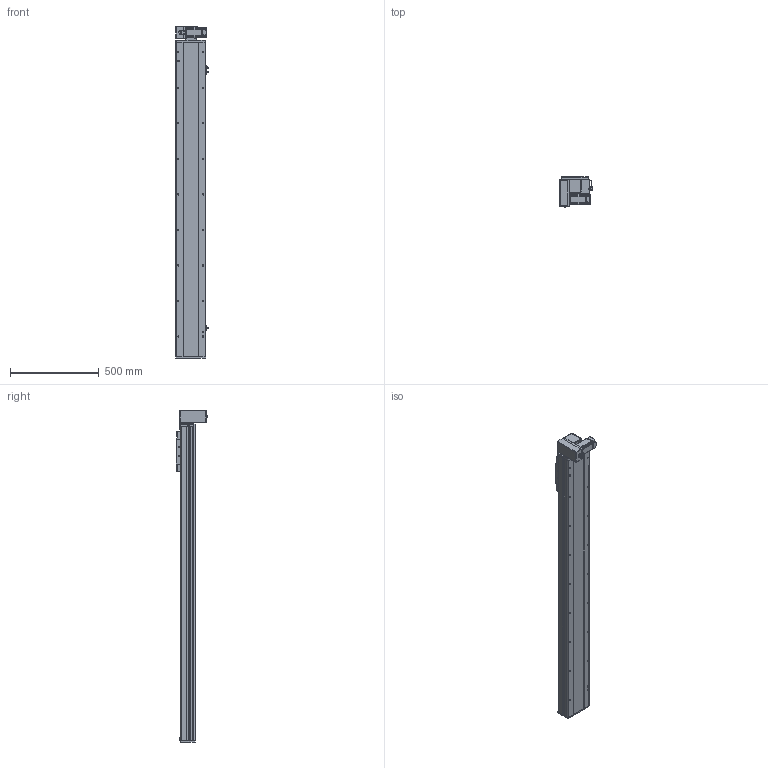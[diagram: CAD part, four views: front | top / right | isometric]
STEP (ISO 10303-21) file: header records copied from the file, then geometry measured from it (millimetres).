
FILE_DESCRIPTION (( 'STEP AP214' ), '1' );
FILE_NAME ('TPE17-L40-1450-LD-T40-C4.STEP', '2023-04-12T01:36:20', ( '' ), ( '' ), 'SwSTEP 2.0', 'SolidWorks 2020', '' );
FILE_SCHEMA (( 'AUTOMOTIVE_DESIGN' ));
Length unit declared in the file: millimetre
Products named in the file (12): hex nuts, style 1-grades ab gb_GB_FASTENER_NUT_SNAB1 M3-N; 葩璃 TPE17-L-001 菁釱MZ-170-01^TPE17-L40-LD-T40-C4; TPE17-L40-1450-LD-T40-C4; 葩璃 pm-t65-672^TPE17-L40-LD-T40-C4; 葩璃 詩湍110^TPE17-L40-LD-T40-C4; 葩璃 侂狟400W^TPE17-L40-LD-T40-C4; 葩璃 TPE17-L-002 耜裔ZTMZ-135-04^TPE17-L40-LD-T40-C4; 葩璃 TPE17 賑雄殤^TPE17-L40-LD-T40-C4; hexagon head bolts-full thread gb_GB_FASTENER_BOLT_STBAB A M5X16-N; hexagon socket head cap screws gb_GB_FASTENER_SCREWS_HSHCS M3X6-N; 葩璃 TPT14-L-009 萇儂啣^TPE17-L40-LD-T40-C4_400W; 葩璃 TPE17-L-007 々湍釱MZ-169x88^TPE17-L40-LD-T40-C4_TPE17
Assembly tree (24 placements, depth 2):
  TPE17-L40-1450-LD-T40-C4
    葩璃 TPE17-L-001 菁釱MZ-170-01^TPE17-L40-LD-T40-C4
    葩璃 TPE17-L-002 耜裔ZTMZ-135-04^TPE17-L40-LD-T40-C4  x2
    葩璃 詩湍110^TPE17-L40-LD-T40-C4
    葩璃 TPE17-L-007 々湍釱MZ-169x88^TPE17-L40-LD-T40-C4_TPE17
    葩璃 TPT14-L-009 萇儂啣^TPE17-L40-LD-T40-C4_400W
    葩璃 TPE17 賑雄殤^TPE17-L40-LD-T40-C4
    葩璃 pm-t65-672^TPE17-L40-LD-T40-C4  x3
    葩璃 侂狟400W^TPE17-L40-LD-T40-C4
    hexagon socket head cap screws gb_GB_FASTENER_SCREWS_HSHCS M3X6-N  x6
    hex nuts, style 1-grades ab gb_GB_FASTENER_NUT_SNAB1 M3-N  x6
    hexagon head bolts-full thread gb_GB_FASTENER_BOLT_STBAB A M5X16-N
Bounding box: 183.7 x 175.15 x 1869 mm (x, y, z)
Volume: 16639570.7 mm3; surface area: 2189295.3 mm2
Topology: 35 solids, 35 shells, 1714 faces, 4367 edges, 2748 vertices
Faces by surface type: plane 981, cylinder 473, cone 214, bspline 34, torus 12
Entity records: 40355 total; most frequent: CARTESIAN_POINT 7888, DIRECTION 6472, ORIENTED_EDGE 6246, EDGE_CURVE 3123, AXIS2_PLACEMENT_3D 2205, VECTOR 2062, LINE 2062, VERTEX_POINT 2011
